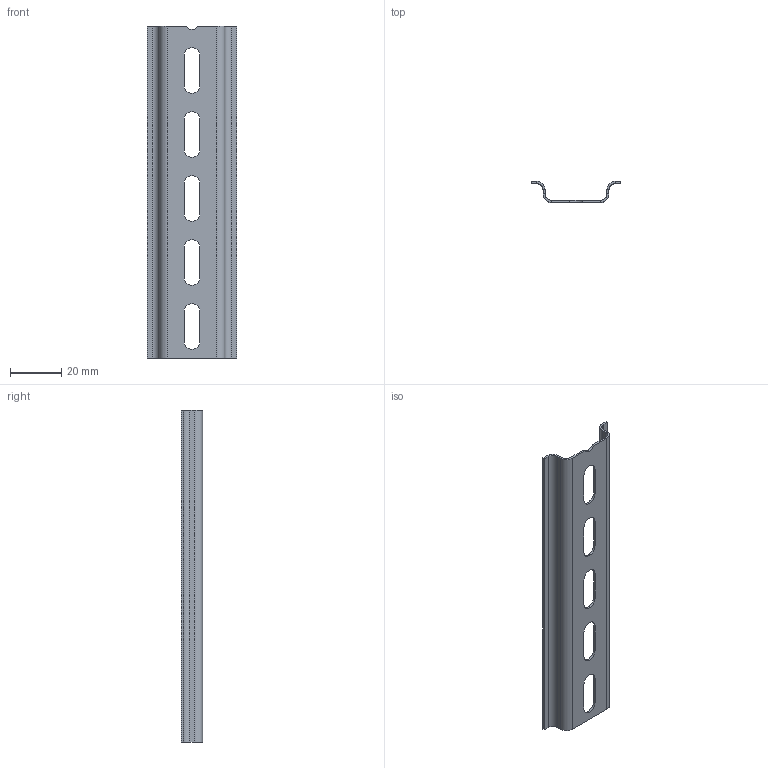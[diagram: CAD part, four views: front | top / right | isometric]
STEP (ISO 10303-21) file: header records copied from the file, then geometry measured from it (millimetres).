
FILE_DESCRIPTION (( 'STEP AP214' ), '1' );
FILE_NAME ('DIN-ðåéêà 130ìì õ 0,8 ìì.STEP', '2025-10-22T12:43:42', ( '' ), ( '' ), 'SwSTEP 2.0', 'SolidWorks 2018', '' );
FILE_SCHEMA (( 'AUTOMOTIVE_DESIGN' ));
Length unit declared in the file: millimetre
Products named in the file (1): DIN-ðåéêà 130ìì õ 0,8 ìì
Bounding box: 35.2 x 8.3 x 130 mm (x, y, z)
Volume: 4291.3 mm3; surface area: 11180.5 mm2
Topology: 1 solids, 1 shells, 65 faces, 157 edges, 94 vertices
Faces by surface type: plane 41, cylinder 24
Entity records: 1917 total; most frequent: DIRECTION 337, CARTESIAN_POINT 317, ORIENTED_EDGE 314, EDGE_CURVE 157, AXIS2_PLACEMENT_3D 114, VECTOR 109, LINE 109, VERTEX_POINT 94
